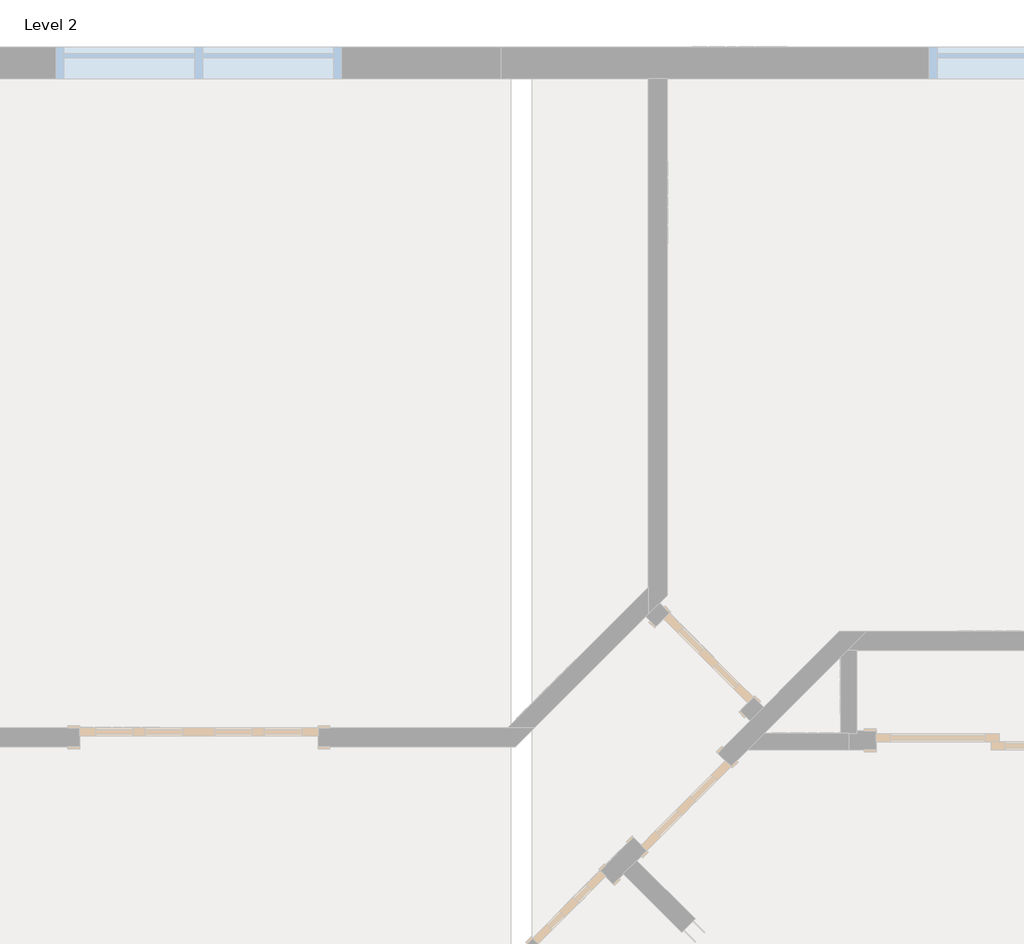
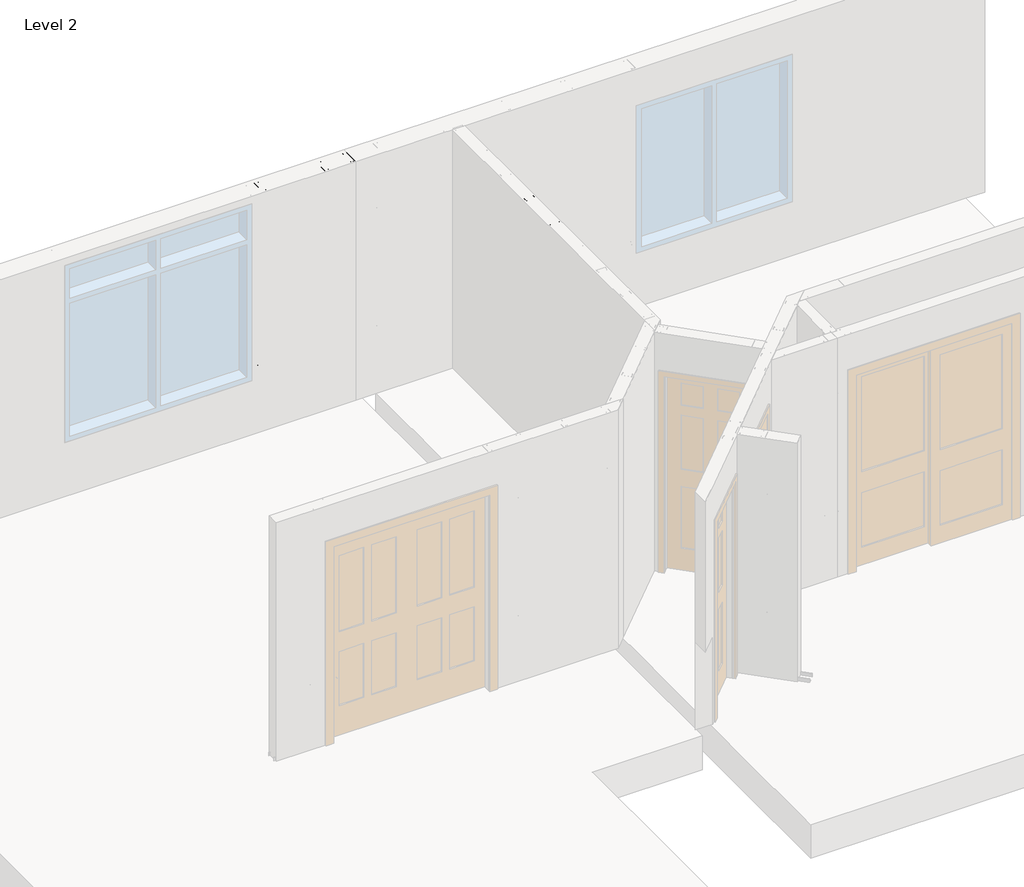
# One storey, part 37 of 46: 6 columns, 1 beam.
"""IFC4 building model written with IfcOpenShell, lengths in millimetres."""

from ifc_helpers import new_model, si_unit, point, frame, origin, place, context, project, spatial, circle_curve, ellipse_curve, trimmed, transform, mapped, element, save
from ifc_brep_helpers import plane_surface, extruded_surface, advanced_brep
from components import beam_350nf150_33_10881730

model = new_model("IFC4")

# Units and contexts
model_context = context("Model", 3, world=origin())
ifc_project = project(units=[si_unit("LENGTHUNIT", "METRE", prefix="MILLI")], contexts=[model_context])

# Site, building, storey
site = spatial("IfcSite", under=ifc_project)
building = spatial("IfcBuilding", under=site)
storey = spatial("IfcBuildingStorey", under=building, Name="Level 2", Elevation=3060.7)

# Beam
placement = place(None, origin())
beam_350nf150_33_shape = beam_350nf150_33_10881730(model_context)
element("IfcBeam", 1, ObjectType="BIMSF-SSMA-S : 350NF150-33", at=placement, inside=storey, context=model_context, shape_type="MappedRepresentation", body=[
    mapped(beam_350nf150_33_shape, transform((-8163.5735524, 12239.0177158, 3076.575), x_axis=(0.0, -1.0000000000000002, 0.0), y_axis=(0.0, 0.0, -1.0000000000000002), z_axis=(1.0000000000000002, 0.0, 0.0))),
])

# Columns
element("IfcColumn", 2, ObjectType="BIMSF-SSMA-S-Column : 350NF150-33", at=placement, inside=storey, context=model_context, shape_type="AdvancedBrep", body=[
    advanced_brep(
    [(-8208.0235524, 12665.202221, 3061.5929687), (-8119.1235524, 12665.202221, 3061.5929687), (-8119.1235524, 12627.102221, 3061.5929687), (-8124.7810682, 12627.102221, 3061.5929687), (-8124.7810682, 12627.9845367, 3061.5929687), (-8120.0058682, 12627.9845367, 3061.5929687), (-8120.0058682, 12664.3199052, 3061.5929687), (-8207.1412366, 12664.3199052, 3061.5929687), (-8207.1412366, 12627.9845367, 3061.5929687), (-8202.3660366, 12627.9845367, 3061.5929687), (-8202.3660366, 12627.102221, 3061.5929687), (-8208.0235524, 12627.102221, 3061.5929687), (-8208.0235524, 12665.202221, 5523.6070313), (-8119.1235524, 12665.202221, 5523.6070313), (-8150.8735524, 12665.202221, 3671.1929688), (-8176.2735524, 12665.202221, 3671.1929688), (-8150.8735524, 12665.202221, 4890.3929687), (-8176.2735524, 12665.202221, 4890.3929687), (-8119.1235524, 12627.102221, 5523.6070313), (-8124.7810682, 12627.102221, 5523.6070313), (-8124.7810682, 12627.9845367, 5523.6070313), (-8120.0058682, 12627.9845367, 5523.6070313), (-8120.0058682, 12664.3199052, 5523.6070313), (-8207.1412366, 12664.3199052, 5523.6070313), (-8176.2735524, 12664.3199052, 3671.1929688), (-8150.8735524, 12664.3199052, 3671.1929688), (-8176.2735524, 12664.3199052, 4890.3929687), (-8150.8735524, 12664.3199052, 4890.3929687), (-8207.1412366, 12627.9845367, 5523.6070313), (-8202.3660366, 12627.9845367, 5523.6070313), (-8202.3660366, 12627.102221, 5523.6070313), (-8208.0235524, 12627.102221, 5523.6070313)],
    [
        (0, 1),
        (1, 2),
        (2, 3),
        (3, 4),
        (4, 5),
        (5, 6),
        (6, 7),
        (7, 8),
        (8, 9),
        (9, 10),
        (10, 11),
        (11, 0),
        (0, 12),
        (12, 13),
        (13, 1),
        (14, 15, circle_curve(frame((-8163.5735524, 12665.202221, 3671.1929687), z_axis=(0.0, -1.0, 0.0), x_axis=(1.0, 0.0, 0.0)), 12.7)),
        (15, 14, circle_curve(frame((-8163.5735524, 12665.202221, 3671.1929687), z_axis=(0.0, -1.0, 0.0), x_axis=(1.0, 0.0, 0.0)), 12.7)),
        (16, 17, circle_curve(frame((-8163.5735524, 12665.202221, 4890.3929687), z_axis=(0.0, -1.0, 0.0), x_axis=(1.0, 0.0, 0.0)), 12.7)),
        (17, 16, circle_curve(frame((-8163.5735524, 12665.202221, 4890.3929687), z_axis=(0.0, -1.0, 0.0), x_axis=(1.0, 0.0, 0.0)), 12.7)),
        (13, 18),
        (18, 2),
        (18, 19),
        (19, 3),
        (19, 20),
        (20, 4),
        (20, 21),
        (21, 5),
        (21, 22),
        (22, 6),
        (22, 23),
        (23, 7),
        (24, 25, circle_curve(frame((-8163.5735524, 12664.3199052, 3671.1929688), z_axis=(0.0, 1.0, 0.0), x_axis=(1.0, 0.0, 0.0)), 12.7)),
        (25, 24, circle_curve(frame((-8163.5735524, 12664.3199052, 3671.1929688), z_axis=(0.0, 1.0, 0.0), x_axis=(1.0, 0.0, 0.0)), 12.7)),
        (26, 27, circle_curve(frame((-8163.5735524, 12664.3199052, 4890.3929687), z_axis=(0.0, 1.0, 0.0), x_axis=(1.0, 0.0, 0.0)), 12.7)),
        (27, 26, circle_curve(frame((-8163.5735524, 12664.3199052, 4890.3929687), z_axis=(0.0, 1.0, 0.0), x_axis=(1.0, 0.0, 0.0)), 12.7)),
        (23, 28),
        (28, 8),
        (28, 29),
        (29, 9),
        (29, 30),
        (30, 10),
        (30, 31),
        (31, 11),
        (31, 12),
        (24, 15),
        (14, 25),
        (26, 17),
        (16, 27),
    ],
    [
        plane_surface(frame((-8208.0235524, 12665.202221, 3061.5929687), z_axis=(0.0, 0.0, -1.0), x_axis=(0.0, 1.0, 0.0))),
        plane_surface(frame((-8119.1235524, 12665.202221, 5523.6070313), z_axis=(0.0, 1.0, 0.0), x_axis=(0.0, 0.0, -1.0))),
        plane_surface(frame((-8119.1235524, 12627.102221, 5523.6070313), z_axis=(1.0, 0.0, 0.0), x_axis=(0.0, 0.0, -1.0))),
        plane_surface(frame((-8124.7810682, 12627.102221, 5523.6070313), z_axis=(0.0, -1.0, 0.0), x_axis=(0.0, 0.0, -1.0))),
        plane_surface(frame((-8124.7810682, 12627.9845367, 5523.6070313), z_axis=(-1.0, 0.0, 0.0), x_axis=(0.0, 0.0, -1.0))),
        plane_surface(frame((-8120.0058682, 12627.9845367, 5523.6070313), z_axis=(0.0, 1.0, 0.0), x_axis=(0.0, 0.0, -1.0))),
        plane_surface(frame((-8120.0058682, 12664.3199052, 5523.6070313), z_axis=(-1.0, 0.0, 0.0), x_axis=(0.0, 0.0, -1.0))),
        plane_surface(frame((-8207.1412366, 12664.3199052, 5523.6070313), z_axis=(0.0, -1.0, 0.0), x_axis=(0.0, 0.0, -1.0))),
        plane_surface(frame((-8207.1412366, 12627.9845367, 5523.6070313), z_axis=(1.0, 0.0, 0.0), x_axis=(0.0, 0.0, -1.0))),
        plane_surface(frame((-8202.3660366, 12627.9845367, 5523.6070313), z_axis=(0.0, 1.0, 0.0), x_axis=(0.0, 0.0, -1.0))),
        plane_surface(frame((-8202.3660366, 12627.102221, 5523.6070313), z_axis=(1.0, 0.0, 0.0), x_axis=(0.0, 0.0, -1.0))),
        plane_surface(frame((-8208.0235524, 12627.102221, 5523.6070313), z_axis=(0.0, -1.0, 0.0), x_axis=(0.0, 0.0, -1.0))),
        plane_surface(frame((-8208.0235524, 12665.202221, 5523.6070313), z_axis=(-1.0, 0.0, 0.0), x_axis=(0.0, 0.0, -1.0))),
        plane_surface(frame((-8208.0235524, 12665.202221, 5523.6070313), z_axis=(0.0, 0.0, 1.0), x_axis=(0.0, -1.0, 0.0))),
        extruded_surface(trimmed(ellipse_curve(frame((-8163.5735524, 10184.1381585, 3671.1929688), z_axis=(0.0, 1.0, 0.0), x_axis=(1.0, 0.0, 0.0)), 12.7, 12.7), [point((-8176.2735524, 10184.1381585, 3671.1929688))], [point((-8150.8735524, 10184.1381585, 3671.1929688))], True, "CARTESIAN"), (0.0, -4924.028125, 0.0), 4924.028125),
        extruded_surface(trimmed(ellipse_curve(frame((-8163.5735524, 10184.1381585, 3671.1929688), z_axis=(0.0, 1.0, 0.0), x_axis=(1.0, 0.0, 0.0)), 12.7, 12.7), [point((-8150.8735524, 10184.1381585, 3671.1929688))], [point((-8176.2735524, 10184.1381585, 3671.1929688))], True, "CARTESIAN"), (0.0, -4924.028125, 0.0), 4924.028125),
        extruded_surface(trimmed(ellipse_curve(frame((-8163.5735524, 10184.1381585, 4890.3929687), z_axis=(0.0, 1.0, 0.0), x_axis=(1.0, 0.0, 0.0)), 12.7, 12.7), [point((-8176.2735524, 10184.1381585, 4890.3929687))], [point((-8150.8735524, 10184.1381585, 4890.3929687))], True, "CARTESIAN"), (0.0, -4924.028125, 0.0), 4924.028125),
        extruded_surface(trimmed(ellipse_curve(frame((-8163.5735524, 10184.1381585, 4890.3929687), z_axis=(0.0, 1.0, 0.0), x_axis=(1.0, 0.0, 0.0)), 12.7, 12.7), [point((-8150.8735524, 10184.1381585, 4890.3929687))], [point((-8176.2735524, 10184.1381585, 4890.3929687))], True, "CARTESIAN"), (0.0, -4924.028125, 0.0), 4924.028125),
    ],
    [
        (0, [[1, 2, 3, 4, 5, 6, 7, 8, 9, 10, 11, 12]]),
        (1, [[-1, 13, 14, 15], [16, 17], [18, 19]]),
        (2, [[-2, -15, 20, 21]]),
        (3, [[-3, -21, 22, 23]]),
        (4, [[-4, -23, 24, 25]]),
        (5, [[-5, -25, 26, 27]]),
        (6, [[-6, -27, 28, 29]]),
        (7, [[-7, -29, 30, 31], [32, 33], [34, 35]]),
        (8, [[-8, -31, 36, 37]]),
        (9, [[-9, -37, 38, 39]]),
        (10, [[-10, -39, 40, 41]]),
        (11, [[-11, -41, 42, 43]]),
        (12, [[-12, -43, 44, -13]]),
        (13, [[-14, -44, -42, -40, -38, -36, -30, -28, -26, -24, -22, -20]]),
        (14, [[45, -16, 46, -32]]),
        (15, [[-45, -33, -46, -17]]),
        (16, [[47, -18, 48, -34]]),
        (17, [[-47, -35, -48, -19]]),
    ],
),
])
element("IfcColumn", 3, ObjectType="BIMSF-SSMA-S-Column : 350NF150-33", at=placement, inside=storey, context=model_context, shape_type="AdvancedBrep", body=[
    advanced_brep(
    [(-8208.0235524, 12258.802221, 3061.5929687), (-8119.1235524, 12258.802221, 3061.5929687), (-8119.1235524, 12220.702221, 3061.5929687), (-8124.7810682, 12220.702221, 3061.5929687), (-8124.7810682, 12221.5845367, 3061.5929687), (-8120.0058682, 12221.5845367, 3061.5929687), (-8120.0058682, 12257.9199052, 3061.5929687), (-8207.1412366, 12257.9199052, 3061.5929687), (-8207.1412366, 12221.5845367, 3061.5929687), (-8202.3660366, 12221.5845367, 3061.5929687), (-8202.3660366, 12220.702221, 3061.5929687), (-8208.0235524, 12220.702221, 3061.5929687), (-8208.0235524, 12258.802221, 5523.6070313), (-8119.1235524, 12258.802221, 5523.6070313), (-8150.8735524, 12258.802221, 3671.1929688), (-8176.2735524, 12258.802221, 3671.1929688), (-8150.8735524, 12258.802221, 4890.3929687), (-8176.2735524, 12258.802221, 4890.3929687), (-8119.1235524, 12220.702221, 5523.6070313), (-8124.7810682, 12220.702221, 5523.6070313), (-8124.7810682, 12221.5845367, 5523.6070313), (-8120.0058682, 12221.5845367, 5523.6070313), (-8120.0058682, 12257.9199052, 5523.6070313), (-8207.1412366, 12257.9199052, 5523.6070313), (-8176.2735524, 12257.9199052, 3671.1929688), (-8150.8735524, 12257.9199052, 3671.1929688), (-8176.2735524, 12257.9199052, 4890.3929687), (-8150.8735524, 12257.9199052, 4890.3929687), (-8207.1412366, 12221.5845367, 5523.6070313), (-8202.3660366, 12221.5845367, 5523.6070313), (-8202.3660366, 12220.702221, 5523.6070313), (-8208.0235524, 12220.702221, 5523.6070313)],
    [
        (0, 1),
        (1, 2),
        (2, 3),
        (3, 4),
        (4, 5),
        (5, 6),
        (6, 7),
        (7, 8),
        (8, 9),
        (9, 10),
        (10, 11),
        (11, 0),
        (0, 12),
        (12, 13),
        (13, 1),
        (14, 15, circle_curve(frame((-8163.5735524, 12258.802221, 3671.1929687), z_axis=(0.0, -1.0, 0.0), x_axis=(1.0, 0.0, 0.0)), 12.7)),
        (15, 14, circle_curve(frame((-8163.5735524, 12258.802221, 3671.1929687), z_axis=(0.0, -1.0, 0.0), x_axis=(1.0, 0.0, 0.0)), 12.7)),
        (16, 17, circle_curve(frame((-8163.5735524, 12258.802221, 4890.3929687), z_axis=(0.0, -1.0, 0.0), x_axis=(1.0, 0.0, 0.0)), 12.7)),
        (17, 16, circle_curve(frame((-8163.5735524, 12258.802221, 4890.3929687), z_axis=(0.0, -1.0, 0.0), x_axis=(1.0, 0.0, 0.0)), 12.7)),
        (13, 18),
        (18, 2),
        (18, 19),
        (19, 3),
        (19, 20),
        (20, 4),
        (20, 21),
        (21, 5),
        (21, 22),
        (22, 6),
        (22, 23),
        (23, 7),
        (24, 25, circle_curve(frame((-8163.5735524, 12257.9199052, 3671.1929688), z_axis=(0.0, 1.0, 0.0), x_axis=(1.0, 0.0, 0.0)), 12.7)),
        (25, 24, circle_curve(frame((-8163.5735524, 12257.9199052, 3671.1929688), z_axis=(0.0, 1.0, 0.0), x_axis=(1.0, 0.0, 0.0)), 12.7)),
        (26, 27, circle_curve(frame((-8163.5735524, 12257.9199052, 4890.3929687), z_axis=(0.0, 1.0, 0.0), x_axis=(1.0, 0.0, 0.0)), 12.7)),
        (27, 26, circle_curve(frame((-8163.5735524, 12257.9199052, 4890.3929687), z_axis=(0.0, 1.0, 0.0), x_axis=(1.0, 0.0, 0.0)), 12.7)),
        (23, 28),
        (28, 8),
        (28, 29),
        (29, 9),
        (29, 30),
        (30, 10),
        (30, 31),
        (31, 11),
        (31, 12),
        (24, 15),
        (14, 25),
        (26, 17),
        (16, 27),
    ],
    [
        plane_surface(frame((-8208.0235524, 12258.802221, 3061.5929687), z_axis=(0.0, 0.0, -1.0), x_axis=(0.0, 1.0, 0.0))),
        plane_surface(frame((-8119.1235524, 12258.802221, 5523.6070313), z_axis=(0.0, 1.0, 0.0), x_axis=(0.0, 0.0, -1.0))),
        plane_surface(frame((-8119.1235524, 12220.702221, 5523.6070313), z_axis=(1.0, 0.0, 0.0), x_axis=(0.0, 0.0, -1.0))),
        plane_surface(frame((-8124.7810682, 12220.702221, 5523.6070313), z_axis=(0.0, -1.0, 0.0), x_axis=(0.0, 0.0, -1.0))),
        plane_surface(frame((-8124.7810682, 12221.5845367, 5523.6070313), z_axis=(-1.0, 0.0, 0.0), x_axis=(0.0, 0.0, -1.0))),
        plane_surface(frame((-8120.0058682, 12221.5845367, 5523.6070313), z_axis=(0.0, 1.0, 0.0), x_axis=(0.0, 0.0, -1.0))),
        plane_surface(frame((-8120.0058682, 12257.9199052, 5523.6070313), z_axis=(-1.0, 0.0, 0.0), x_axis=(0.0, 0.0, -1.0))),
        plane_surface(frame((-8207.1412366, 12257.9199052, 5523.6070313), z_axis=(0.0, -1.0, 0.0), x_axis=(0.0, 0.0, -1.0))),
        plane_surface(frame((-8207.1412366, 12221.5845367, 5523.6070313), z_axis=(1.0, 0.0, 0.0), x_axis=(0.0, 0.0, -1.0))),
        plane_surface(frame((-8202.3660366, 12221.5845367, 5523.6070313), z_axis=(0.0, 1.0, 0.0), x_axis=(0.0, 0.0, -1.0))),
        plane_surface(frame((-8202.3660366, 12220.702221, 5523.6070313), z_axis=(1.0, 0.0, 0.0), x_axis=(0.0, 0.0, -1.0))),
        plane_surface(frame((-8208.0235524, 12220.702221, 5523.6070313), z_axis=(0.0, -1.0, 0.0), x_axis=(0.0, 0.0, -1.0))),
        plane_surface(frame((-8208.0235524, 12258.802221, 5523.6070313), z_axis=(-1.0, 0.0, 0.0), x_axis=(0.0, 0.0, -1.0))),
        plane_surface(frame((-8208.0235524, 12258.802221, 5523.6070313), z_axis=(0.0, 0.0, 1.0), x_axis=(0.0, -1.0, 0.0))),
        extruded_surface(trimmed(ellipse_curve(frame((-8163.5735524, 9777.7381585, 3671.1929688), z_axis=(0.0, 1.0, 0.0), x_axis=(1.0, 0.0, 0.0)), 12.7, 12.7), [point((-8176.2735524, 9777.7381585, 3671.1929688))], [point((-8150.8735524, 9777.7381585, 3671.1929688))], True, "CARTESIAN"), (0.0, -4924.028125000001, 0.0), 4924.028125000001),
        extruded_surface(trimmed(ellipse_curve(frame((-8163.5735524, 9777.7381585, 3671.1929688), z_axis=(0.0, 1.0, 0.0), x_axis=(1.0, 0.0, 0.0)), 12.7, 12.7), [point((-8150.8735524, 9777.7381585, 3671.1929688))], [point((-8176.2735524, 9777.7381585, 3671.1929688))], True, "CARTESIAN"), (0.0, -4924.028125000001, 0.0), 4924.028125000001),
        extruded_surface(trimmed(ellipse_curve(frame((-8163.5735524, 9777.7381585, 4890.3929687), z_axis=(0.0, 1.0, 0.0), x_axis=(1.0, 0.0, 0.0)), 12.7, 12.7), [point((-8176.2735524, 9777.7381585, 4890.3929687))], [point((-8150.8735524, 9777.7381585, 4890.3929687))], True, "CARTESIAN"), (0.0, -4924.028125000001, 0.0), 4924.028125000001),
        extruded_surface(trimmed(ellipse_curve(frame((-8163.5735524, 9777.7381585, 4890.3929687), z_axis=(0.0, 1.0, 0.0), x_axis=(1.0, 0.0, 0.0)), 12.7, 12.7), [point((-8150.8735524, 9777.7381585, 4890.3929687))], [point((-8176.2735524, 9777.7381585, 4890.3929687))], True, "CARTESIAN"), (0.0, -4924.028125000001, 0.0), 4924.028125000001),
    ],
    [
        (0, [[1, 2, 3, 4, 5, 6, 7, 8, 9, 10, 11, 12]]),
        (1, [[-1, 13, 14, 15], [16, 17], [18, 19]]),
        (2, [[-2, -15, 20, 21]]),
        (3, [[-3, -21, 22, 23]]),
        (4, [[-4, -23, 24, 25]]),
        (5, [[-5, -25, 26, 27]]),
        (6, [[-6, -27, 28, 29]]),
        (7, [[-7, -29, 30, 31], [32, 33], [34, 35]]),
        (8, [[-8, -31, 36, 37]]),
        (9, [[-9, -37, 38, 39]]),
        (10, [[-10, -39, 40, 41]]),
        (11, [[-11, -41, 42, 43]]),
        (12, [[-12, -43, 44, -13]]),
        (13, [[-14, -44, -42, -40, -38, -36, -30, -28, -26, -24, -22, -20]]),
        (14, [[45, -16, 46, -32]]),
        (15, [[-45, -33, -46, -17]]),
        (16, [[47, -18, 48, -34]]),
        (17, [[-47, -35, -48, -19]]),
    ],
),
])
element("IfcColumn", 4, ObjectType="BIMSF-SSMA-S-Column : 550NF150-43", at=placement, inside=storey, context=model_context, shape_type="AdvancedBrep", body=[
    advanced_brep(
    [(-9167.9413349, 13865.352221, 3061.5929687), (-9167.9413349, 14005.052221, 3061.5929687), (-9129.8413349, 14005.052221, 3061.5929687), (-9129.8413349, 13999.1273367, 3061.5929687), (-9130.9910191, 13999.1273367, 3061.5929687), (-9130.9910191, 14003.9025367, 3061.5929687), (-9166.7916507, 14003.9025367, 3061.5929687), (-9166.7916507, 13866.5019052, 3061.5929687), (-9130.9910191, 13866.5019052, 3061.5929687), (-9130.9910191, 13871.2771052, 3061.5929687), (-9129.8413349, 13871.2771052, 3061.5929687), (-9129.8413349, 13865.352221, 3061.5929687), (-9167.9413349, 13865.352221, 5523.6070313), (-9167.9413349, 14005.052221, 5523.6070313), (-9167.9413349, 13947.902221, 3671.1929688), (-9167.9413349, 13922.502221, 3671.1929688), (-9167.9413349, 13947.902221, 4890.3929687), (-9167.9413349, 13922.502221, 4890.3929687), (-9129.8413349, 14005.052221, 5523.6070313), (-9129.8413349, 13999.1273367, 5523.6070313), (-9130.9910191, 13999.1273367, 5523.6070313), (-9130.9910191, 14003.9025367, 5523.6070313), (-9166.7916507, 14003.9025367, 5523.6070313), (-9166.7916507, 13866.5019052, 5523.6070313), (-9166.7916507, 13922.502221, 3671.1929688), (-9166.7916507, 13947.902221, 3671.1929688), (-9166.7916507, 13922.502221, 4890.3929687), (-9166.7916507, 13947.902221, 4890.3929687), (-9130.9910191, 13866.5019052, 5523.6070313), (-9130.9910191, 13871.2771052, 5523.6070313), (-9129.8413349, 13871.2771052, 5523.6070313), (-9129.8413349, 13865.352221, 5523.6070313)],
    [
        (0, 1),
        (1, 2),
        (2, 3),
        (3, 4),
        (4, 5),
        (5, 6),
        (6, 7),
        (7, 8),
        (8, 9),
        (9, 10),
        (10, 11),
        (11, 0),
        (0, 12),
        (12, 13),
        (13, 1),
        (14, 15, circle_curve(frame((-9167.9413349, 13935.202221, 3671.1929688), z_axis=(1.0, 0.0, 0.0), x_axis=(0.0, 1.0, 0.0)), 12.7)),
        (15, 14, circle_curve(frame((-9167.9413349, 13935.202221, 3671.1929687), z_axis=(1.0, 0.0, 0.0), x_axis=(0.0, 1.0, 0.0)), 12.7)),
        (16, 17, circle_curve(frame((-9167.9413349, 13935.202221, 4890.3929687), z_axis=(1.0, 0.0, 0.0), x_axis=(0.0, 1.0, 0.0)), 12.7)),
        (17, 16, circle_curve(frame((-9167.9413349, 13935.202221, 4890.3929687), z_axis=(1.0, 0.0, 0.0), x_axis=(0.0, 1.0, 0.0)), 12.7)),
        (13, 18),
        (18, 2),
        (18, 19),
        (19, 3),
        (19, 20),
        (20, 4),
        (20, 21),
        (21, 5),
        (21, 22),
        (22, 6),
        (22, 23),
        (23, 7),
        (24, 25, circle_curve(frame((-9166.7916507, 13935.202221, 3671.1929687), z_axis=(-1.0, 0.0, 0.0), x_axis=(0.0, 1.0, 0.0)), 12.7)),
        (25, 24, circle_curve(frame((-9166.7916507, 13935.202221, 3671.1929687), z_axis=(-1.0, 0.0, 0.0), x_axis=(0.0, 1.0, 0.0)), 12.7)),
        (26, 27, circle_curve(frame((-9166.7916507, 13935.202221, 4890.3929687), z_axis=(-1.0, 0.0, 0.0), x_axis=(0.0, 1.0, 0.0)), 12.7)),
        (27, 26, circle_curve(frame((-9166.7916507, 13935.202221, 4890.3929687), z_axis=(-1.0, 0.0, 0.0), x_axis=(0.0, 1.0, 0.0)), 12.7)),
        (23, 28),
        (28, 8),
        (28, 29),
        (29, 9),
        (29, 30),
        (30, 10),
        (30, 31),
        (31, 11),
        (31, 12),
        (24, 15),
        (14, 25),
        (26, 17),
        (16, 27),
    ],
    [
        plane_surface(frame((-9167.9413349, 13865.352221, 3061.5929687), z_axis=(0.0, 0.0, -1.0), x_axis=(-1.0, 0.0, 0.0))),
        plane_surface(frame((-9167.9413349, 14005.052221, 5523.6070313), z_axis=(-1.0, 0.0, 0.0), x_axis=(0.0, 0.0, -1.0))),
        plane_surface(frame((-9129.8413349, 14005.052221, 5523.6070313), z_axis=(0.0, 1.0, 0.0), x_axis=(0.0, 0.0, -1.0))),
        plane_surface(frame((-9129.8413349, 13999.1273367, 5523.6070313), z_axis=(1.0, 0.0, 0.0), x_axis=(0.0, 0.0, -1.0))),
        plane_surface(frame((-9130.9910191, 13999.1273367, 5523.6070313), z_axis=(0.0, -1.0, 0.0), x_axis=(0.0, 0.0, -1.0))),
        plane_surface(frame((-9130.9910191, 14003.9025367, 5523.6070313), z_axis=(-1.0, 0.0, 0.0), x_axis=(0.0, 0.0, -1.0))),
        plane_surface(frame((-9166.7916507, 14003.9025367, 5523.6070313), z_axis=(0.0, -1.0, 0.0), x_axis=(0.0, 0.0, -1.0))),
        plane_surface(frame((-9166.7916507, 13866.5019052, 5523.6070313), z_axis=(1.0, 0.0, 0.0), x_axis=(0.0, 0.0, -1.0))),
        plane_surface(frame((-9130.9910191, 13866.5019052, 5523.6070313), z_axis=(0.0, 1.0, 0.0), x_axis=(0.0, 0.0, -1.0))),
        plane_surface(frame((-9130.9910191, 13871.2771052, 5523.6070313), z_axis=(-1.0, 0.0, 0.0), x_axis=(0.0, 0.0, -1.0))),
        plane_surface(frame((-9129.8413349, 13871.2771052, 5523.6070313), z_axis=(0.0, 1.0, 0.0), x_axis=(0.0, 0.0, -1.0))),
        plane_surface(frame((-9129.8413349, 13865.352221, 5523.6070313), z_axis=(1.0, 0.0, 0.0), x_axis=(0.0, 0.0, -1.0))),
        plane_surface(frame((-9167.9413349, 13865.352221, 5523.6070313), z_axis=(0.0, -1.0, 0.0), x_axis=(0.0, 0.0, -1.0))),
        plane_surface(frame((-9167.9413349, 13865.352221, 5523.6070313), z_axis=(0.0, 0.0, 1.0), x_axis=(1.0, 0.0, 0.0))),
        extruded_surface(trimmed(ellipse_curve(frame((-6686.8772724, 13935.202221, 3671.1929688), z_axis=(-1.0, 0.0, 0.0), x_axis=(0.0, 1.0, 0.0)), 12.7, 12.7), [point((-6686.8772724, 13922.502221, 3671.1929688))], [point((-6686.8772724, 13947.902221, 3671.1929688))], True, "CARTESIAN"), (4924.028125, 0.0, 0.0), 4924.028125),
        extruded_surface(trimmed(ellipse_curve(frame((-6686.8772724, 13935.202221, 3671.1929688), z_axis=(-1.0, 0.0, 0.0), x_axis=(0.0, 1.0, 0.0)), 12.7, 12.7), [point((-6686.8772724, 13947.902221, 3671.1929688))], [point((-6686.8772724, 13922.502221, 3671.1929688))], True, "CARTESIAN"), (4924.028125, 0.0, 0.0), 4924.028125),
        extruded_surface(trimmed(ellipse_curve(frame((-6686.8772724, 13935.202221, 4890.3929687), z_axis=(-1.0, 0.0, 0.0), x_axis=(0.0, 1.0, 0.0)), 12.7, 12.7), [point((-6686.8772724, 13922.502221, 4890.3929687))], [point((-6686.8772724, 13947.902221, 4890.3929687))], True, "CARTESIAN"), (4924.028125, 0.0, 0.0), 4924.028125),
        extruded_surface(trimmed(ellipse_curve(frame((-6686.8772724, 13935.202221, 4890.3929687), z_axis=(-1.0, 0.0, 0.0), x_axis=(0.0, 1.0, 0.0)), 12.7, 12.7), [point((-6686.8772724, 13947.902221, 4890.3929687))], [point((-6686.8772724, 13922.502221, 4890.3929687))], True, "CARTESIAN"), (4924.028125, 0.0, 0.0), 4924.028125),
    ],
    [
        (0, [[1, 2, 3, 4, 5, 6, 7, 8, 9, 10, 11, 12]]),
        (1, [[-1, 13, 14, 15], [16, 17], [18, 19]]),
        (2, [[-2, -15, 20, 21]]),
        (3, [[-3, -21, 22, 23]]),
        (4, [[-4, -23, 24, 25]]),
        (5, [[-5, -25, 26, 27]]),
        (6, [[-6, -27, 28, 29]]),
        (7, [[-7, -29, 30, 31], [32, 33], [34, 35]]),
        (8, [[-8, -31, 36, 37]]),
        (9, [[-9, -37, 38, 39]]),
        (10, [[-10, -39, 40, 41]]),
        (11, [[-11, -41, 42, 43]]),
        (12, [[-12, -43, 44, -13]]),
        (13, [[-14, -44, -42, -40, -38, -36, -30, -28, -26, -24, -22, -20]]),
        (14, [[45, -16, 46, -32]]),
        (15, [[-45, -33, -46, -17]]),
        (16, [[47, -18, 48, -34]]),
        (17, [[-47, -35, -48, -19]]),
    ],
),
])
element("IfcColumn", 5, ObjectType="BIMSF-SSMA-S-Column : 550NF150-43", at=placement, inside=storey, context=model_context, shape_type="AdvancedBrep", body=[
    advanced_brep(
    [(-9167.9413349, 14005.052221, 3061.5929687), (-9167.9413349, 13865.352221, 3061.5929687), (-9206.0413349, 13865.352221, 3061.5929687), (-9206.0413349, 13871.2771052, 3061.5929687), (-9204.8916507, 13871.2771052, 3061.5929687), (-9204.8916507, 13866.5019052, 3061.5929687), (-9169.0910191, 13866.5019052, 3061.5929687), (-9169.0910191, 14003.9025367, 3061.5929687), (-9204.8916507, 14003.9025367, 3061.5929687), (-9204.8916507, 13999.1273367, 3061.5929687), (-9206.0413349, 13999.1273367, 3061.5929687), (-9206.0413349, 14005.052221, 3061.5929687), (-9167.9413349, 14005.052221, 5523.6070313), (-9167.9413349, 13865.352221, 5523.6070313), (-9167.9413349, 13922.502221, 3671.1929687), (-9167.9413349, 13947.902221, 3671.1929687), (-9167.9413349, 13922.502221, 4890.3929688), (-9167.9413349, 13947.902221, 4890.3929687), (-9206.0413349, 13865.352221, 5523.6070313), (-9206.0413349, 13871.2771052, 5523.6070313), (-9204.8916507, 13871.2771052, 5523.6070313), (-9204.8916507, 13866.5019052, 5523.6070313), (-9169.0910191, 13866.5019052, 5523.6070313), (-9169.0910191, 14003.9025367, 5523.6070313), (-9169.0910191, 13947.902221, 3671.1929687), (-9169.0910191, 13922.502221, 3671.1929687), (-9169.0910191, 13947.902221, 4890.3929688), (-9169.0910191, 13922.502221, 4890.3929688), (-9204.8916507, 14003.9025367, 5523.6070313), (-9204.8916507, 13999.1273367, 5523.6070313), (-9206.0413349, 13999.1273367, 5523.6070313), (-9206.0413349, 14005.052221, 5523.6070313)],
    [
        (0, 1),
        (1, 2),
        (2, 3),
        (3, 4),
        (4, 5),
        (5, 6),
        (6, 7),
        (7, 8),
        (8, 9),
        (9, 10),
        (10, 11),
        (11, 0),
        (0, 12),
        (12, 13),
        (13, 1),
        (14, 15, circle_curve(frame((-9167.9413349, 13935.202221, 3671.1929688), z_axis=(-1.0, 0.0, 0.0), x_axis=(0.0, -1.0, 0.0)), 12.7)),
        (15, 14, circle_curve(frame((-9167.9413349, 13935.202221, 3671.1929688), z_axis=(-1.0, 0.0, 0.0), x_axis=(0.0, -1.0, 0.0)), 12.7)),
        (16, 17, circle_curve(frame((-9167.9413349, 13935.202221, 4890.3929687), z_axis=(-1.0, 0.0, 0.0), x_axis=(0.0, -1.0, 0.0)), 12.7)),
        (17, 16, circle_curve(frame((-9167.9413349, 13935.202221, 4890.3929687), z_axis=(-1.0, 0.0, 0.0), x_axis=(0.0, -1.0, 0.0)), 12.7)),
        (13, 18),
        (18, 2),
        (18, 19),
        (19, 3),
        (19, 20),
        (20, 4),
        (20, 21),
        (21, 5),
        (21, 22),
        (22, 6),
        (22, 23),
        (23, 7),
        (24, 25, circle_curve(frame((-9169.0910191, 13935.202221, 3671.1929688), z_axis=(1.0, 0.0, 0.0), x_axis=(0.0, -1.0, 0.0)), 12.7)),
        (25, 24, circle_curve(frame((-9169.0910191, 13935.202221, 3671.1929688), z_axis=(1.0, 0.0, 0.0), x_axis=(0.0, -1.0, 0.0)), 12.7)),
        (26, 27, circle_curve(frame((-9169.0910191, 13935.202221, 4890.3929687), z_axis=(1.0, 0.0, 0.0), x_axis=(0.0, -1.0, 0.0)), 12.7)),
        (27, 26, circle_curve(frame((-9169.0910191, 13935.202221, 4890.3929687), z_axis=(1.0, 0.0, 0.0), x_axis=(0.0, -1.0, 0.0)), 12.7)),
        (23, 28),
        (28, 8),
        (28, 29),
        (29, 9),
        (29, 30),
        (30, 10),
        (30, 31),
        (31, 11),
        (31, 12),
        (24, 15),
        (14, 25),
        (26, 17),
        (16, 27),
    ],
    [
        plane_surface(frame((-9167.9413349, 14005.052221, 3061.5929687), z_axis=(0.0, 0.0, -1.0), x_axis=(1.0, 0.0, 0.0))),
        plane_surface(frame((-9167.9413349, 13865.352221, 5523.6070313), z_axis=(1.0, 0.0, 0.0), x_axis=(0.0, 0.0, -1.0))),
        plane_surface(frame((-9206.0413349, 13865.352221, 5523.6070313), z_axis=(0.0, -1.0, 0.0), x_axis=(0.0, 0.0, -1.0))),
        plane_surface(frame((-9206.0413349, 13871.2771052, 5523.6070313), z_axis=(-1.0, 0.0, 0.0), x_axis=(0.0, 0.0, -1.0))),
        plane_surface(frame((-9204.8916507, 13871.2771052, 5523.6070313), z_axis=(0.0, 1.0, 0.0), x_axis=(0.0, 0.0, -1.0))),
        plane_surface(frame((-9204.8916507, 13866.5019052, 5523.6070313), z_axis=(1.0, 0.0, 0.0), x_axis=(0.0, 0.0, -1.0))),
        plane_surface(frame((-9169.0910191, 13866.5019052, 5523.6070313), z_axis=(0.0, 1.0, 0.0), x_axis=(0.0, 0.0, -1.0))),
        plane_surface(frame((-9169.0910191, 14003.9025367, 5523.6070313), z_axis=(-1.0, 0.0, 0.0), x_axis=(0.0, 0.0, -1.0))),
        plane_surface(frame((-9204.8916507, 14003.9025367, 5523.6070313), z_axis=(0.0, -1.0, 0.0), x_axis=(0.0, 0.0, -1.0))),
        plane_surface(frame((-9204.8916507, 13999.1273367, 5523.6070313), z_axis=(1.0, 0.0, 0.0), x_axis=(0.0, 0.0, -1.0))),
        plane_surface(frame((-9206.0413349, 13999.1273367, 5523.6070313), z_axis=(0.0, -1.0, 0.0), x_axis=(0.0, 0.0, -1.0))),
        plane_surface(frame((-9206.0413349, 14005.052221, 5523.6070313), z_axis=(-1.0, 0.0, 0.0), x_axis=(0.0, 0.0, -1.0))),
        plane_surface(frame((-9167.9413349, 14005.052221, 5523.6070313), z_axis=(0.0, 1.0, 0.0), x_axis=(0.0, 0.0, -1.0))),
        plane_surface(frame((-9167.9413349, 14005.052221, 5523.6070313), z_axis=(0.0, 0.0, 1.0), x_axis=(-1.0, 0.0, 0.0))),
        extruded_surface(trimmed(ellipse_curve(frame((-11649.0053974, 13935.202221, 3671.1929688), z_axis=(1.0, 0.0, 0.0), x_axis=(0.0, -1.0, 0.0)), 12.7, 12.7), [point((-11649.0053974, 13947.902221, 3671.1929688))], [point((-11649.0053974, 13922.502221, 3671.1929688))], True, "CARTESIAN"), (-4924.028125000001, 0.0, 0.0), 4924.028125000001),
        extruded_surface(trimmed(ellipse_curve(frame((-11649.0053974, 13935.202221, 3671.1929688), z_axis=(1.0, 0.0, 0.0), x_axis=(0.0, -1.0, 0.0)), 12.7, 12.7), [point((-11649.0053974, 13922.502221, 3671.1929688))], [point((-11649.0053974, 13947.902221, 3671.1929688))], True, "CARTESIAN"), (-4924.028125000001, 0.0, 0.0), 4924.028125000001),
        extruded_surface(trimmed(ellipse_curve(frame((-11649.0053974, 13935.202221, 4890.3929687), z_axis=(1.0, 0.0, 0.0), x_axis=(0.0, -1.0, 0.0)), 12.7, 12.7), [point((-11649.0053974, 13947.902221, 4890.3929687))], [point((-11649.0053974, 13922.502221, 4890.3929687))], True, "CARTESIAN"), (-4924.028125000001, 0.0, 0.0), 4924.028125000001),
        extruded_surface(trimmed(ellipse_curve(frame((-11649.0053974, 13935.202221, 4890.3929687), z_axis=(1.0, 0.0, 0.0), x_axis=(0.0, -1.0, 0.0)), 12.7, 12.7), [point((-11649.0053974, 13922.502221, 4890.3929687))], [point((-11649.0053974, 13947.902221, 4890.3929687))], True, "CARTESIAN"), (-4924.028125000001, 0.0, 0.0), 4924.028125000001),
    ],
    [
        (0, [[1, 2, 3, 4, 5, 6, 7, 8, 9, 10, 11, 12]]),
        (1, [[-1, 13, 14, 15], [16, 17], [18, 19]]),
        (2, [[-2, -15, 20, 21]]),
        (3, [[-3, -21, 22, 23]]),
        (4, [[-4, -23, 24, 25]]),
        (5, [[-5, -25, 26, 27]]),
        (6, [[-6, -27, 28, 29]]),
        (7, [[-7, -29, 30, 31], [32, 33], [34, 35]]),
        (8, [[-8, -31, 36, 37]]),
        (9, [[-9, -37, 38, 39]]),
        (10, [[-10, -39, 40, 41]]),
        (11, [[-11, -41, 42, 43]]),
        (12, [[-12, -43, 44, -13]]),
        (13, [[-14, -44, -42, -40, -38, -36, -30, -28, -26, -24, -22, -20]]),
        (14, [[45, -16, 46, -32]]),
        (15, [[-45, -33, -46, -17]]),
        (16, [[47, -18, 48, -34]]),
        (17, [[-47, -35, -48, -19]]),
    ],
),
])
element("IfcColumn", 6, ObjectType="BIMSF-SSMA-S-Column : 550NF150-43", at=placement, inside=storey, context=model_context, shape_type="AdvancedBrep", body=[
    advanced_brep(
    [(-10072.3202411, 13865.352221, 3061.5929687), (-10072.3202411, 14005.052221, 3061.5929687), (-10034.2202411, 14005.052221, 3061.5929687), (-10034.2202411, 13999.1273367, 3061.5929687), (-10035.3699253, 13999.1273367, 3061.5929687), (-10035.3699253, 14003.9025367, 3061.5929687), (-10071.1705569, 14003.9025367, 3061.5929687), (-10071.1705569, 13866.5019052, 3061.5929687), (-10035.3699253, 13866.5019052, 3061.5929687), (-10035.3699253, 13871.2771052, 3061.5929687), (-10034.2202411, 13871.2771052, 3061.5929687), (-10034.2202411, 13865.352221, 3061.5929687), (-10072.3202411, 13865.352221, 5523.6070313), (-10072.3202411, 14005.052221, 5523.6070313), (-10072.3202411, 13947.902221, 3671.1929688), (-10072.3202411, 13922.502221, 3671.1929688), (-10072.3202411, 13947.902221, 4890.3929687), (-10072.3202411, 13922.502221, 4890.3929687), (-10034.2202411, 14005.052221, 5523.6070313), (-10034.2202411, 13999.1273367, 5523.6070313), (-10035.3699253, 13999.1273367, 5523.6070313), (-10035.3699253, 14003.9025367, 5523.6070313), (-10071.1705569, 14003.9025367, 5523.6070313), (-10071.1705569, 13866.5019052, 5523.6070313), (-10071.1705569, 13922.502221, 3671.1929688), (-10071.1705569, 13947.902221, 3671.1929688), (-10071.1705569, 13922.502221, 4890.3929687), (-10071.1705569, 13947.902221, 4890.3929687), (-10035.3699253, 13866.5019052, 5523.6070313), (-10035.3699253, 13871.2771052, 5523.6070313), (-10034.2202411, 13871.2771052, 5523.6070313), (-10034.2202411, 13865.352221, 5523.6070313)],
    [
        (0, 1),
        (1, 2),
        (2, 3),
        (3, 4),
        (4, 5),
        (5, 6),
        (6, 7),
        (7, 8),
        (8, 9),
        (9, 10),
        (10, 11),
        (11, 0),
        (0, 12),
        (12, 13),
        (13, 1),
        (14, 15, circle_curve(frame((-10072.3202411, 13935.202221, 3671.1929687), z_axis=(1.0, 0.0, 0.0), x_axis=(0.0, 1.0, 0.0)), 12.7)),
        (15, 14, circle_curve(frame((-10072.3202411, 13935.202221, 3671.1929687), z_axis=(1.0, 0.0, 0.0), x_axis=(0.0, 1.0, 0.0)), 12.7)),
        (16, 17, circle_curve(frame((-10072.3202411, 13935.202221, 4890.3929687), z_axis=(1.0, 0.0, 0.0), x_axis=(0.0, 1.0, 0.0)), 12.7)),
        (17, 16, circle_curve(frame((-10072.3202411, 13935.202221, 4890.3929687), z_axis=(1.0, 0.0, 0.0), x_axis=(0.0, 1.0, 0.0)), 12.7)),
        (13, 18),
        (18, 2),
        (18, 19),
        (19, 3),
        (19, 20),
        (20, 4),
        (20, 21),
        (21, 5),
        (21, 22),
        (22, 6),
        (22, 23),
        (23, 7),
        (24, 25, circle_curve(frame((-10071.1705569, 13935.202221, 3671.1929687), z_axis=(-1.0, 0.0, 0.0), x_axis=(0.0, 1.0, 0.0)), 12.7)),
        (25, 24, circle_curve(frame((-10071.1705569, 13935.202221, 3671.1929687), z_axis=(-1.0, 0.0, 0.0), x_axis=(0.0, 1.0, 0.0)), 12.7)),
        (26, 27, circle_curve(frame((-10071.1705569, 13935.202221, 4890.3929687), z_axis=(-1.0, 0.0, 0.0), x_axis=(0.0, 1.0, 0.0)), 12.7)),
        (27, 26, circle_curve(frame((-10071.1705569, 13935.202221, 4890.3929687), z_axis=(-1.0, 0.0, 0.0), x_axis=(0.0, 1.0, 0.0)), 12.7)),
        (23, 28),
        (28, 8),
        (28, 29),
        (29, 9),
        (29, 30),
        (30, 10),
        (30, 31),
        (31, 11),
        (31, 12),
        (24, 15),
        (14, 25),
        (26, 17),
        (16, 27),
    ],
    [
        plane_surface(frame((-10072.3202411, 13865.352221, 3061.5929687), z_axis=(0.0, 0.0, -1.0), x_axis=(-1.0, 0.0, 0.0))),
        plane_surface(frame((-10072.3202411, 14005.052221, 5523.6070313), z_axis=(-1.0, 0.0, 0.0), x_axis=(0.0, 0.0, -1.0))),
        plane_surface(frame((-10034.2202411, 14005.052221, 5523.6070313), z_axis=(0.0, 1.0, 0.0), x_axis=(0.0, 0.0, -1.0))),
        plane_surface(frame((-10034.2202411, 13999.1273367, 5523.6070313), z_axis=(1.0, 0.0, 0.0), x_axis=(0.0, 0.0, -1.0))),
        plane_surface(frame((-10035.3699253, 13999.1273367, 5523.6070313), z_axis=(0.0, -1.0, 0.0), x_axis=(0.0, 0.0, -1.0))),
        plane_surface(frame((-10035.3699253, 14003.9025367, 5523.6070313), z_axis=(-1.0, 0.0, 0.0), x_axis=(0.0, 0.0, -1.0))),
        plane_surface(frame((-10071.1705569, 14003.9025367, 5523.6070313), z_axis=(0.0, -1.0, 0.0), x_axis=(0.0, 0.0, -1.0))),
        plane_surface(frame((-10071.1705569, 13866.5019052, 5523.6070313), z_axis=(1.0, 0.0, 0.0), x_axis=(0.0, 0.0, -1.0))),
        plane_surface(frame((-10035.3699253, 13866.5019052, 5523.6070313), z_axis=(0.0, 1.0, 0.0), x_axis=(0.0, 0.0, -1.0))),
        plane_surface(frame((-10035.3699253, 13871.2771052, 5523.6070313), z_axis=(-1.0, 0.0, 0.0), x_axis=(0.0, 0.0, -1.0))),
        plane_surface(frame((-10034.2202411, 13871.2771052, 5523.6070313), z_axis=(0.0, 1.0, 0.0), x_axis=(0.0, 0.0, -1.0))),
        plane_surface(frame((-10034.2202411, 13865.352221, 5523.6070313), z_axis=(1.0, 0.0, 0.0), x_axis=(0.0, 0.0, -1.0))),
        plane_surface(frame((-10072.3202411, 13865.352221, 5523.6070313), z_axis=(0.0, -1.0, 0.0), x_axis=(0.0, 0.0, -1.0))),
        plane_surface(frame((-10072.3202411, 13865.352221, 5523.6070313), z_axis=(0.0, 0.0, 1.0), x_axis=(1.0, 0.0, 0.0))),
        extruded_surface(trimmed(ellipse_curve(frame((-7591.2561786, 13935.202221, 3671.1929688), z_axis=(-1.0, 0.0, 0.0), x_axis=(0.0, 1.0, 0.0)), 12.7, 12.7), [point((-7591.2561786, 13922.502221, 3671.1929688))], [point((-7591.2561786, 13947.902221, 3671.1929688))], True, "CARTESIAN"), (4924.028125, 0.0, 0.0), 4924.028125),
        extruded_surface(trimmed(ellipse_curve(frame((-7591.2561786, 13935.202221, 3671.1929688), z_axis=(-1.0, 0.0, 0.0), x_axis=(0.0, 1.0, 0.0)), 12.7, 12.7), [point((-7591.2561786, 13947.902221, 3671.1929688))], [point((-7591.2561786, 13922.502221, 3671.1929688))], True, "CARTESIAN"), (4924.028125, 0.0, 0.0), 4924.028125),
        extruded_surface(trimmed(ellipse_curve(frame((-7591.2561786, 13935.202221, 4890.3929687), z_axis=(-1.0, 0.0, 0.0), x_axis=(0.0, 1.0, 0.0)), 12.7, 12.7), [point((-7591.2561786, 13922.502221, 4890.3929687))], [point((-7591.2561786, 13947.902221, 4890.3929687))], True, "CARTESIAN"), (4924.028125, 0.0, 0.0), 4924.028125),
        extruded_surface(trimmed(ellipse_curve(frame((-7591.2561786, 13935.202221, 4890.3929687), z_axis=(-1.0, 0.0, 0.0), x_axis=(0.0, 1.0, 0.0)), 12.7, 12.7), [point((-7591.2561786, 13947.902221, 4890.3929687))], [point((-7591.2561786, 13922.502221, 4890.3929687))], True, "CARTESIAN"), (4924.028125, 0.0, 0.0), 4924.028125),
    ],
    [
        (0, [[1, 2, 3, 4, 5, 6, 7, 8, 9, 10, 11, 12]]),
        (1, [[-1, 13, 14, 15], [16, 17], [18, 19]]),
        (2, [[-2, -15, 20, 21]]),
        (3, [[-3, -21, 22, 23]]),
        (4, [[-4, -23, 24, 25]]),
        (5, [[-5, -25, 26, 27]]),
        (6, [[-6, -27, 28, 29]]),
        (7, [[-7, -29, 30, 31], [32, 33], [34, 35]]),
        (8, [[-8, -31, 36, 37]]),
        (9, [[-9, -37, 38, 39]]),
        (10, [[-10, -39, 40, 41]]),
        (11, [[-11, -41, 42, 43]]),
        (12, [[-12, -43, 44, -13]]),
        (13, [[-14, -44, -42, -40, -38, -36, -30, -28, -26, -24, -22, -20]]),
        (14, [[45, -16, 46, -32]]),
        (15, [[-45, -33, -46, -17]]),
        (16, [[47, -18, 48, -34]]),
        (17, [[-47, -35, -48, -19]]),
    ],
),
])
element("IfcColumn", 7, ObjectType="BIMSF-SSMA-S-Column : 550NF150-43", at=placement, inside=storey, context=model_context, shape_type="AdvancedBrep", body=[
    advanced_brep(
    [(-9462.7202411, 13865.352221, 3061.5929687), (-9462.7202411, 14005.052221, 3061.5929687), (-9424.6202411, 14005.052221, 3061.5929687), (-9424.6202411, 13999.1273367, 3061.5929687), (-9425.7699253, 13999.1273367, 3061.5929687), (-9425.7699253, 14003.9025367, 3061.5929687), (-9461.5705569, 14003.9025367, 3061.5929687), (-9461.5705569, 13866.5019052, 3061.5929687), (-9425.7699253, 13866.5019052, 3061.5929687), (-9425.7699253, 13871.2771052, 3061.5929687), (-9424.6202411, 13871.2771052, 3061.5929687), (-9424.6202411, 13865.352221, 3061.5929687), (-9462.7202411, 13865.352221, 5523.6070313), (-9462.7202411, 14005.052221, 5523.6070313), (-9462.7202411, 13947.902221, 3671.1929688), (-9462.7202411, 13922.502221, 3671.1929688), (-9462.7202411, 13947.902221, 4890.3929687), (-9462.7202411, 13922.502221, 4890.3929687), (-9424.6202411, 14005.052221, 5523.6070313), (-9424.6202411, 13999.1273367, 5523.6070313), (-9425.7699253, 13999.1273367, 5523.6070313), (-9425.7699253, 14003.9025367, 5523.6070313), (-9461.5705569, 14003.9025367, 5523.6070313), (-9461.5705569, 13866.5019052, 5523.6070313), (-9461.5705569, 13922.502221, 3671.1929688), (-9461.5705569, 13947.902221, 3671.1929688), (-9461.5705569, 13922.502221, 4890.3929687), (-9461.5705569, 13947.902221, 4890.3929687), (-9425.7699253, 13866.5019052, 5523.6070313), (-9425.7699253, 13871.2771052, 5523.6070313), (-9424.6202411, 13871.2771052, 5523.6070313), (-9424.6202411, 13865.352221, 5523.6070313)],
    [
        (0, 1),
        (1, 2),
        (2, 3),
        (3, 4),
        (4, 5),
        (5, 6),
        (6, 7),
        (7, 8),
        (8, 9),
        (9, 10),
        (10, 11),
        (11, 0),
        (0, 12),
        (12, 13),
        (13, 1),
        (14, 15, circle_curve(frame((-9462.7202411, 13935.202221, 3671.1929687), z_axis=(1.0, 0.0, 0.0), x_axis=(0.0, 1.0, 0.0)), 12.7)),
        (15, 14, circle_curve(frame((-9462.7202411, 13935.202221, 3671.1929687), z_axis=(1.0, 0.0, 0.0), x_axis=(0.0, 1.0, 0.0)), 12.7)),
        (16, 17, circle_curve(frame((-9462.7202411, 13935.202221, 4890.3929687), z_axis=(1.0, 0.0, 0.0), x_axis=(0.0, 1.0, 0.0)), 12.7)),
        (17, 16, circle_curve(frame((-9462.7202411, 13935.202221, 4890.3929687), z_axis=(1.0, 0.0, 0.0), x_axis=(0.0, 1.0, 0.0)), 12.7)),
        (13, 18),
        (18, 2),
        (18, 19),
        (19, 3),
        (19, 20),
        (20, 4),
        (20, 21),
        (21, 5),
        (21, 22),
        (22, 6),
        (22, 23),
        (23, 7),
        (24, 25, circle_curve(frame((-9461.5705569, 13935.202221, 3671.1929687), z_axis=(-1.0, 0.0, 0.0), x_axis=(0.0, 1.0, 0.0)), 12.7)),
        (25, 24, circle_curve(frame((-9461.5705569, 13935.202221, 3671.1929687), z_axis=(-1.0, 0.0, 0.0), x_axis=(0.0, 1.0, 0.0)), 12.7)),
        (26, 27, circle_curve(frame((-9461.5705569, 13935.202221, 4890.3929687), z_axis=(-1.0, 0.0, 0.0), x_axis=(0.0, 1.0, 0.0)), 12.7)),
        (27, 26, circle_curve(frame((-9461.5705569, 13935.202221, 4890.3929687), z_axis=(-1.0, 0.0, 0.0), x_axis=(0.0, 1.0, 0.0)), 12.7)),
        (23, 28),
        (28, 8),
        (28, 29),
        (29, 9),
        (29, 30),
        (30, 10),
        (30, 31),
        (31, 11),
        (31, 12),
        (24, 15),
        (14, 25),
        (26, 17),
        (16, 27),
    ],
    [
        plane_surface(frame((-9462.7202411, 13865.352221, 3061.5929687), z_axis=(0.0, 0.0, -1.0), x_axis=(-1.0, 0.0, 0.0))),
        plane_surface(frame((-9462.7202411, 14005.052221, 5523.6070313), z_axis=(-1.0, 0.0, 0.0), x_axis=(0.0, 0.0, -1.0))),
        plane_surface(frame((-9424.6202411, 14005.052221, 5523.6070313), z_axis=(0.0, 1.0, 0.0), x_axis=(0.0, 0.0, -1.0))),
        plane_surface(frame((-9424.6202411, 13999.1273367, 5523.6070313), z_axis=(1.0, 0.0, 0.0), x_axis=(0.0, 0.0, -1.0))),
        plane_surface(frame((-9425.7699253, 13999.1273367, 5523.6070313), z_axis=(0.0, -1.0, 0.0), x_axis=(0.0, 0.0, -1.0))),
        plane_surface(frame((-9425.7699253, 14003.9025367, 5523.6070313), z_axis=(-1.0, 0.0, 0.0), x_axis=(0.0, 0.0, -1.0))),
        plane_surface(frame((-9461.5705569, 14003.9025367, 5523.6070313), z_axis=(0.0, -1.0, 0.0), x_axis=(0.0, 0.0, -1.0))),
        plane_surface(frame((-9461.5705569, 13866.5019052, 5523.6070313), z_axis=(1.0, 0.0, 0.0), x_axis=(0.0, 0.0, -1.0))),
        plane_surface(frame((-9425.7699253, 13866.5019052, 5523.6070313), z_axis=(0.0, 1.0, 0.0), x_axis=(0.0, 0.0, -1.0))),
        plane_surface(frame((-9425.7699253, 13871.2771052, 5523.6070313), z_axis=(-1.0, 0.0, 0.0), x_axis=(0.0, 0.0, -1.0))),
        plane_surface(frame((-9424.6202411, 13871.2771052, 5523.6070313), z_axis=(0.0, 1.0, 0.0), x_axis=(0.0, 0.0, -1.0))),
        plane_surface(frame((-9424.6202411, 13865.352221, 5523.6070313), z_axis=(1.0, 0.0, 0.0), x_axis=(0.0, 0.0, -1.0))),
        plane_surface(frame((-9462.7202411, 13865.352221, 5523.6070313), z_axis=(0.0, -1.0, 0.0), x_axis=(0.0, 0.0, -1.0))),
        plane_surface(frame((-9462.7202411, 13865.352221, 5523.6070313), z_axis=(0.0, 0.0, 1.0), x_axis=(1.0, 0.0, 0.0))),
        extruded_surface(trimmed(ellipse_curve(frame((-6981.6561786, 13935.202221, 3671.1929688), z_axis=(-1.0, 0.0, 0.0), x_axis=(0.0, 1.0, 0.0)), 12.7, 12.7), [point((-6981.6561786, 13922.502221, 3671.1929688))], [point((-6981.6561786, 13947.902221, 3671.1929688))], True, "CARTESIAN"), (4924.028125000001, 0.0, 0.0), 4924.028125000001),
        extruded_surface(trimmed(ellipse_curve(frame((-6981.6561786, 13935.202221, 3671.1929688), z_axis=(-1.0, 0.0, 0.0), x_axis=(0.0, 1.0, 0.0)), 12.7, 12.7), [point((-6981.6561786, 13947.902221, 3671.1929688))], [point((-6981.6561786, 13922.502221, 3671.1929688))], True, "CARTESIAN"), (4924.028125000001, 0.0, 0.0), 4924.028125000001),
        extruded_surface(trimmed(ellipse_curve(frame((-6981.6561786, 13935.202221, 4890.3929687), z_axis=(-1.0, 0.0, 0.0), x_axis=(0.0, 1.0, 0.0)), 12.7, 12.7), [point((-6981.6561786, 13922.502221, 4890.3929687))], [point((-6981.6561786, 13947.902221, 4890.3929687))], True, "CARTESIAN"), (4924.028125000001, 0.0, 0.0), 4924.028125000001),
        extruded_surface(trimmed(ellipse_curve(frame((-6981.6561786, 13935.202221, 4890.3929687), z_axis=(-1.0, 0.0, 0.0), x_axis=(0.0, 1.0, 0.0)), 12.7, 12.7), [point((-6981.6561786, 13947.902221, 4890.3929687))], [point((-6981.6561786, 13922.502221, 4890.3929687))], True, "CARTESIAN"), (4924.028125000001, 0.0, 0.0), 4924.028125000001),
    ],
    [
        (0, [[1, 2, 3, 4, 5, 6, 7, 8, 9, 10, 11, 12]]),
        (1, [[-1, 13, 14, 15], [16, 17], [18, 19]]),
        (2, [[-2, -15, 20, 21]]),
        (3, [[-3, -21, 22, 23]]),
        (4, [[-4, -23, 24, 25]]),
        (5, [[-5, -25, 26, 27]]),
        (6, [[-6, -27, 28, 29]]),
        (7, [[-7, -29, 30, 31], [32, 33], [34, 35]]),
        (8, [[-8, -31, 36, 37]]),
        (9, [[-9, -37, 38, 39]]),
        (10, [[-10, -39, 40, 41]]),
        (11, [[-11, -41, 42, 43]]),
        (12, [[-12, -43, 44, -13]]),
        (13, [[-14, -44, -42, -40, -38, -36, -30, -28, -26, -24, -22, -20]]),
        (14, [[45, -16, 46, -32]]),
        (15, [[-45, -33, -46, -17]]),
        (16, [[47, -18, 48, -34]]),
        (17, [[-47, -35, -48, -19]]),
    ],
),
])

save(model, "model.ifc")
